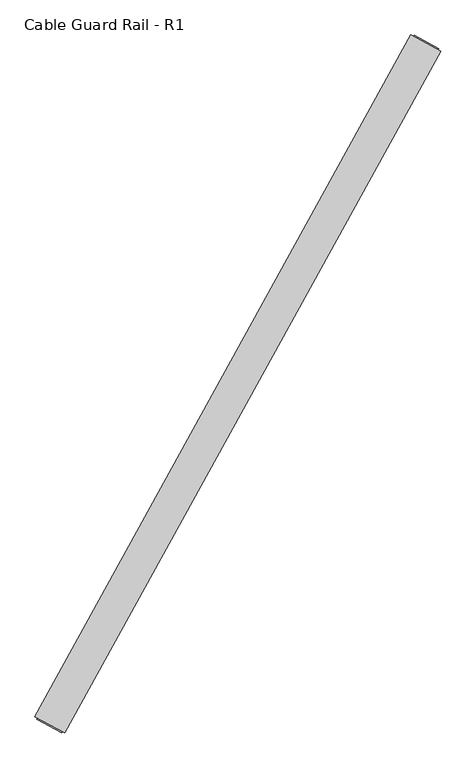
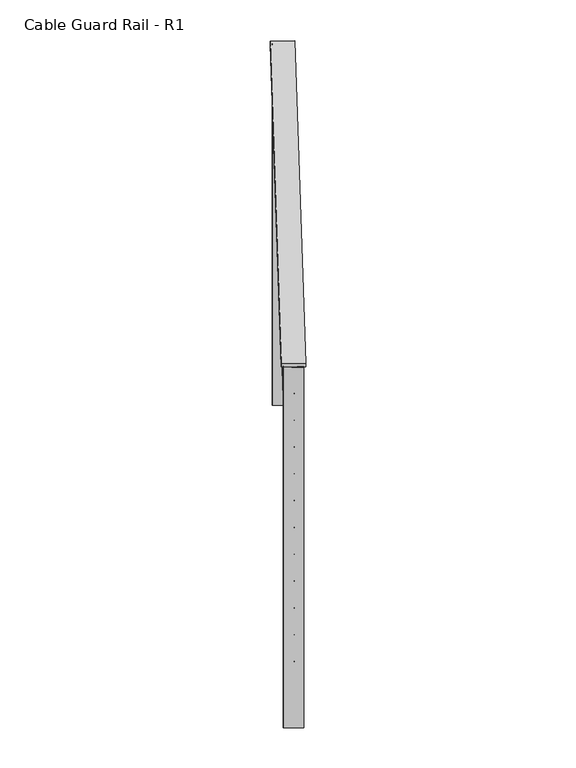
"""IFC4 building model written with IfcOpenShell, lengths in millimetres: railing geometry, Cable Guard Rail - R1."""

from ifc_helpers import new_model, si_unit, point, frame, origin, origin_2d, place, context, project, spatial, polyline, circle_curve, trimmed, segment, composite_curve, outline, extrude, source, transform, mapped, element, save


def cable_guard_rail_r1_a0de9ee8(model_context):
    return source(origin(), model_context, "Body", "SweptSolid", [
        extrude(outline(polyline([(49865.2754503, 186759.2164347), (49798.5509935, 186796.0170713), (50641.2614146, 188323.9633341), (50707.9858714, 188287.1626975), (49865.2754503, 186759.2164347)])), frame((0.0, 0.0, 294906.7), z_axis=(0.0, 0.0, 1.0), x_axis=(1.0, 0.0, 0.0)), (0.0, 0.0, 1.0), 12.7),
        extrude(outline(composite_curve([segment(trimmed(circle_curve(origin_2d(), 3.175), [point((-3.175, 0.0))], [point((3.175, 0.0))], False, "CARTESIAN"), True, "CONTINUOUS"), segment(trimmed(circle_curve(origin_2d(), 3.175), [point((3.175, 0.0))], [point((-3.175, 0.0))], False, "CARTESIAN"), True, "CONTINUOUS")], self_intersect=False)), frame((49831.9132219, 186777.616753, 294805.1), z_axis=(0.48294798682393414, 0.8756490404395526, 0.0), x_axis=(0.8756490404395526, -0.48294798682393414, 0.0)), (0.0, 0.0, 1.0), 1744.9299802),
        extrude(outline(composite_curve([segment(trimmed(circle_curve(origin_2d(), 3.175), [point((-3.175, 0.0))], [point((3.175, 0.0))], False, "CARTESIAN"), True, "CONTINUOUS"), segment(trimmed(circle_curve(origin_2d(), 3.175), [point((3.175, 0.0))], [point((-3.175, 0.0))], False, "CARTESIAN"), True, "CONTINUOUS")], self_intersect=False)), frame((49831.9132219, 186777.616753, 294703.5), z_axis=(0.48294798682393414, 0.8756490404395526, 0.0), x_axis=(0.8756490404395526, -0.48294798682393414, 0.0)), (0.0, 0.0, 1.0), 1744.9299802),
        extrude(outline(composite_curve([segment(trimmed(circle_curve(origin_2d(), 3.175), [point((-3.175, 0.0))], [point((3.175, 0.0))], False, "CARTESIAN"), True, "CONTINUOUS"), segment(trimmed(circle_curve(origin_2d(), 3.175), [point((3.175, 0.0))], [point((-3.175, 0.0))], False, "CARTESIAN"), True, "CONTINUOUS")], self_intersect=False)), frame((49831.9132219, 186777.616753, 294601.9), z_axis=(0.48294798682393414, 0.8756490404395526, 0.0), x_axis=(0.8756490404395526, -0.48294798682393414, 0.0)), (0.0, 0.0, 1.0), 1744.9299802),
        extrude(outline(composite_curve([segment(trimmed(circle_curve(origin_2d(), 3.175), [point((-3.175, 0.0))], [point((3.175, 0.0))], False, "CARTESIAN"), True, "CONTINUOUS"), segment(trimmed(circle_curve(origin_2d(), 3.175), [point((3.175, 0.0))], [point((-3.175, 0.0))], False, "CARTESIAN"), True, "CONTINUOUS")], self_intersect=False)), frame((49831.9132219, 186777.616753, 294500.3), z_axis=(0.48294798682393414, 0.8756490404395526, 0.0), x_axis=(0.8756490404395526, -0.48294798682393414, 0.0)), (0.0, 0.0, 1.0), 1744.9299802),
        extrude(outline(composite_curve([segment(trimmed(circle_curve(origin_2d(), 3.175), [point((-3.175, 0.0))], [point((3.175, 0.0))], False, "CARTESIAN"), True, "CONTINUOUS"), segment(trimmed(circle_curve(origin_2d(), 3.175), [point((3.175, 0.0))], [point((-3.175, 0.0))], False, "CARTESIAN"), True, "CONTINUOUS")], self_intersect=False)), frame((49831.9132219, 186777.616753, 294398.7), z_axis=(0.48294798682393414, 0.8756490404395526, 0.0), x_axis=(0.8756490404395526, -0.48294798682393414, 0.0)), (0.0, 0.0, 1.0), 1744.9299802),
        extrude(outline(composite_curve([segment(trimmed(circle_curve(origin_2d(), 3.175), [point((-3.175, 0.0))], [point((3.175, 0.0))], False, "CARTESIAN"), True, "CONTINUOUS"), segment(trimmed(circle_curve(origin_2d(), 3.175), [point((3.175, 0.0))], [point((-3.175, 0.0))], False, "CARTESIAN"), True, "CONTINUOUS")], self_intersect=False)), frame((49831.9132219, 186777.616753, 294297.1), z_axis=(0.48294798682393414, 0.8756490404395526, 0.0), x_axis=(0.8756490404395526, -0.48294798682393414, 0.0)), (0.0, 0.0, 1.0), 1744.9299802),
        extrude(outline(composite_curve([segment(trimmed(circle_curve(origin_2d(), 3.175), [point((-3.175, 0.0))], [point((3.175, 0.0))], False, "CARTESIAN"), True, "CONTINUOUS"), segment(trimmed(circle_curve(origin_2d(), 3.175), [point((3.175, 0.0))], [point((-3.175, 0.0))], False, "CARTESIAN"), True, "CONTINUOUS")], self_intersect=False)), frame((49831.9132219, 186777.616753, 294195.5), z_axis=(0.48294798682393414, 0.8756490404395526, 0.0), x_axis=(0.8756490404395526, -0.48294798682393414, 0.0)), (0.0, 0.0, 1.0), 1744.9299802),
        extrude(outline(composite_curve([segment(trimmed(circle_curve(origin_2d(), 3.175), [point((-3.175, 0.0))], [point((3.175, 0.0))], False, "CARTESIAN"), True, "CONTINUOUS"), segment(trimmed(circle_curve(origin_2d(), 3.175), [point((3.175, 0.0))], [point((-3.175, 0.0))], False, "CARTESIAN"), True, "CONTINUOUS")], self_intersect=False)), frame((49831.9132219, 186777.616753, 294093.9), z_axis=(0.48294798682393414, 0.8756490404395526, 0.0), x_axis=(0.8756490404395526, -0.48294798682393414, 0.0)), (0.0, 0.0, 1.0), 1744.9299802),
        extrude(outline(composite_curve([segment(trimmed(circle_curve(origin_2d(), 3.175), [point((-3.175, 0.0))], [point((3.175, 0.0))], False, "CARTESIAN"), True, "CONTINUOUS"), segment(trimmed(circle_curve(origin_2d(), 3.175), [point((3.175, 0.0))], [point((-3.175, 0.0))], False, "CARTESIAN"), True, "CONTINUOUS")], self_intersect=False)), frame((49831.9132219, 186777.616753, 293992.3), z_axis=(0.48294798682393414, 0.8756490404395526, 0.0), x_axis=(0.8756490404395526, -0.48294798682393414, 0.0)), (0.0, 0.0, 1.0), 1744.9299802),
        extrude(outline(composite_curve([segment(trimmed(circle_curve(origin_2d(), 3.175), [point((-3.175, 0.0))], [point((3.175, 0.0))], False, "CARTESIAN"), True, "CONTINUOUS"), segment(trimmed(circle_curve(origin_2d(), 3.175), [point((3.175, 0.0))], [point((-3.175, 0.0))], False, "CARTESIAN"), True, "CONTINUOUS")], self_intersect=False)), frame((49831.9132219, 186777.616753, 293890.7), z_axis=(0.48294798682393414, 0.8756490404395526, 0.0), x_axis=(0.8756490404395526, -0.48294798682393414, 0.0)), (0.0, 0.0, 1.0), 1744.9299802),
        extrude(outline(composite_curve([segment(trimmed(circle_curve(origin_2d(), 3.175), [point((-3.175, 0.0))], [point((3.175, 0.0))], False, "CARTESIAN"), True, "CONTINUOUS"), segment(trimmed(circle_curve(origin_2d(), 3.175), [point((3.175, 0.0))], [point((-3.175, 0.0))], False, "CARTESIAN"), True, "CONTINUOUS")], self_intersect=False)), frame((49831.9132219, 186777.616753, 293789.1), z_axis=(0.48294798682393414, 0.8756490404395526, 0.0), x_axis=(0.8756490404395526, -0.48294798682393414, 0.0)), (0.0, 0.0, 1.0), 1744.9299802),
        extrude(outline(polyline([(50645.2884261, 188318.1164287), (50648.3551458, 188323.6768001), (50703.9588599, 188293.0096029), (50700.8921402, 188287.4492315), (50645.2884261, 188318.1164287)])), frame((0.0, 0.0, 293541.45), z_axis=(0.0, 0.0, 1.0), x_axis=(1.0, 0.0, 0.0)), (0.0, 0.0, 1.0), 1365.25),
        extrude(outline(polyline([(49802.578005, 186790.1701658), (49805.6447247, 186795.7305373), (49861.2484388, 186765.0633401), (49858.1817191, 186759.5029687), (49802.578005, 186790.1701658)])), frame((0.0, 0.0, 293541.45), z_axis=(0.0, 0.0, 1.0), x_axis=(1.0, 0.0, 0.0)), (0.0, 0.0, 1.0), 1365.25),
    ])


if __name__ == "__main__":
    model = new_model("IFC4")
    model_context = context("Model", 3, world=origin())
    ifc_project = project(units=[si_unit("LENGTHUNIT", "METRE", prefix="MILLI")], contexts=[model_context])
    site = spatial("IfcSite", under=ifc_project)
    building = spatial("IfcBuilding", under=site)
    placement = place(None, origin())
    cable_guard_rail_r1_shape = cable_guard_rail_r1_a0de9ee8(model_context)
    element("IfcRailing", 1, ObjectType="Cable Guard Rail - R1", at=placement, inside=building, context=model_context, shape_type="MappedRepresentation", body=[
        mapped(cable_guard_rail_r1_shape, transform((0.0, 0.0, 0.0), x_axis=(1.0, 0.0, 0.0), y_axis=(0.0, 1.0, 0.0), z_axis=(0.0, 0.0, 1.0))),
    ])
    save(model, "model.ifc")
